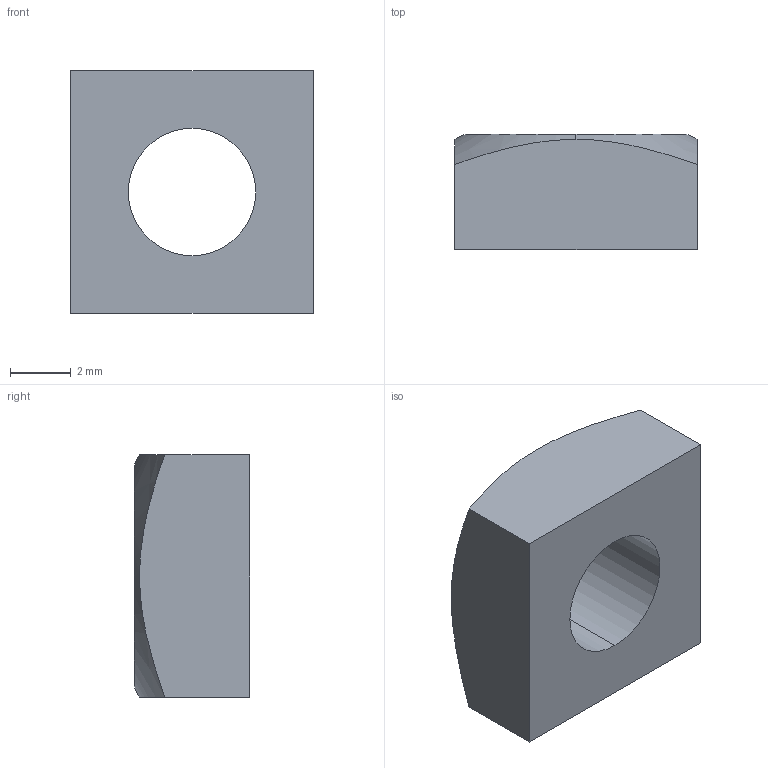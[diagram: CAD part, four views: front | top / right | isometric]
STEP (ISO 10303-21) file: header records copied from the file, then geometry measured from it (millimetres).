
FILE_DESCRIPTION (( 'STEP AP203' ), '1' );
FILE_NAME ('DBS05M5.STEP', '2019-07-12T09:57:56', ( '' ), ( '' ), 'SwSTEP 2.0', 'SolidWorks 2012', '' );
FILE_SCHEMA (( 'CONFIG_CONTROL_DESIGN' ));
Length unit declared in the file: millimetre
Products named in the file (1): DBS05M5
Bounding box: 8 x 3.8 x 8 mm (x, y, z)
Volume: 184 mm3; surface area: 259.7 mm2
Topology: 1 solids, 1 shells, 10 faces, 24 edges, 16 vertices
Faces by surface type: plane 6, cone 2, cylinder 2
Entity records: 409 total; most frequent: CARTESIAN_POINT 97, ORIENTED_EDGE 48, DIRECTION 46, EDGE_CURVE 24, AXIS2_PLACEMENT_3D 17, VERTEX_POINT 16, VECTOR 12, LINE 12
